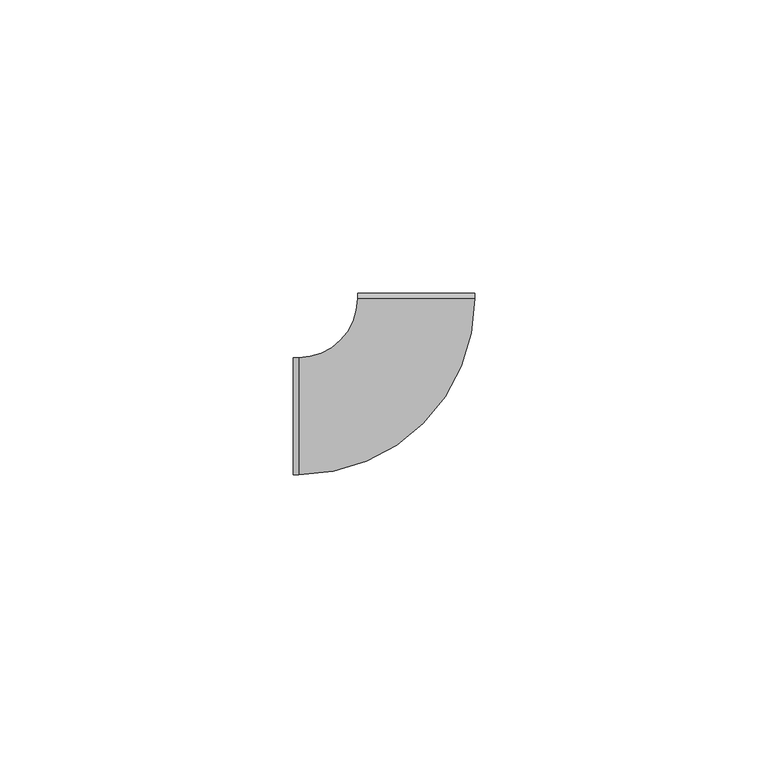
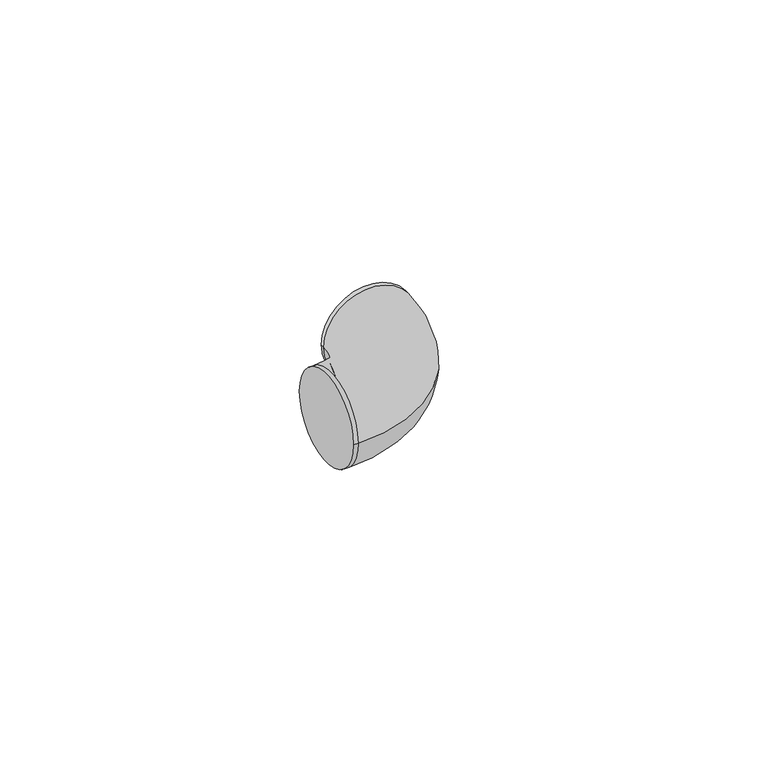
"""IFC4 building model written with IfcOpenShell, lengths in millimetres: cable carrier fitting geometry, ADSK_Поворот_Минимальный размер : Неспецифицируемый."""

import ifcopenshell
import ifcopenshell.guid

model = None  # the IFC model being written
_history = None  # IfcOwnerHistory: only IFC2X3 demands one
_inside = {}  # id of a spatial element -> (the spatial element, [elements in it])
_under = {}  # id of a project, library or spatial element -> (it, [spatial elements below it])
_declared = {}  # id of a project -> (the project, [libraries it declares])
_typed = {}  # id of a type object -> (the type object, [elements of that type])
_made_of = {}  # id of a material, layer set ... -> (it, [elements and type objects made of it])


def new_model(schema):
    """Start an empty IFC model of exactly this schema.

    Asked for "IFC4X3", IfcOpenShell would pick the latest addendum, in which some entities
    have other attributes; the version numbers below select the first issue.
    IFC2X3 requires an IfcOwnerHistory on every rooted entity: one is made here for all.
    """
    global model, _history
    if schema == "IFC4X3":
        model = ifcopenshell.file(schema_version=(4, 3, 0, 0))
    else:
        model = ifcopenshell.file(schema=schema)
    _inside.clear()
    _under.clear()
    _declared.clear()
    _typed.clear()
    _made_of.clear()
    _history = None
    if model.schema == "IFC2X3":
        org = make("IfcOrganization", Name="unknown")
        user = make(
            "IfcPersonAndOrganization",
            ThePerson=make("IfcPerson", FamilyName="unknown"),
            TheOrganization=org,
        )
        app = make(
            "IfcApplication",
            ApplicationDeveloper=org,
            Version="unknown",
            ApplicationFullName="unknown",
            ApplicationIdentifier="unknown",
        )
        _history = make(
            "IfcOwnerHistory",
            OwningUser=user,
            OwningApplication=app,
            ChangeAction="ADDED",
            CreationDate=0,
        )
    return model


def make(cls, **values):
    """One entity of the class cls with the attributes given. An attribute that is None is left unset."""
    return model.create_entity(
        cls, **{name: value for name, value in values.items() if value is not None}
    )


def rooted(cls, **values):
    """An entity with a GlobalId (a new one), such as an element, a storey or a relation."""
    return make(cls, GlobalId=ifcopenshell.guid.new(), OwnerHistory=_history, **values)


def si_unit(unit_type, name, prefix=None):
    """IfcSIUnit, for example si_unit("LENGTHUNIT", "METRE", prefix="MILLI")."""
    return make("IfcSIUnit", UnitType=unit_type, Prefix=prefix, Name=name)


def assignment(units):
    """IfcUnitAssignment: the units of a project."""
    return None if units is None else make("IfcUnitAssignment", Units=units)


def point(xyz):
    """IfcCartesianPoint."""
    return None if xyz is None else make("IfcCartesianPoint", Coordinates=xyz)


def direction(xyz):
    """IfcDirection."""
    return None if xyz is None else make("IfcDirection", DirectionRatios=xyz)


def frame(location, z_axis=None, x_axis=None):
    """IfcAxis2Placement3D, a coordinate frame: its origin and axes. An axis left out is left unset."""
    return make(
        "IfcAxis2Placement3D",
        Location=point(location),
        Axis=direction(z_axis),
        RefDirection=direction(x_axis),
    )


def origin():
    """The frame at (0, 0, 0) with its axes left unset."""
    return frame((0.0, 0.0, 0.0))


def place(relative_to, where):
    """IfcLocalPlacement: puts the frame where relative to a parent placement (None: the world)."""
    return make(
        "IfcLocalPlacement", PlacementRelTo=relative_to, RelativePlacement=where
    )


def context(
    kind, dimensions, precision=None, world=None, true_north=None, identifier=None
):
    """IfcGeometricRepresentationContext, for example the 3D "Model" context."""
    return make(
        "IfcGeometricRepresentationContext",
        ContextIdentifier=identifier,
        ContextType=kind,
        CoordinateSpaceDimension=dimensions,
        Precision=precision,
        WorldCoordinateSystem=world,
        TrueNorth=true_north,
    )


def project(units=None, contexts=None):
    """IfcProject with its units and contexts."""
    return rooted(
        "IfcProject",
        Name="project",
        RepresentationContexts=contexts,
        UnitsInContext=assignment(units),
    )


def spatial(cls, under=None, at=None, **own):
    """A site, building, storey or space (cls), placed at a placement, below another one or the project."""
    s = rooted(cls, ObjectPlacement=at, **own)
    if under is not None:
        _under.setdefault(under.id(), (under, []))[1].append(s)
    return s


def circle_curve(where, radius):
    """IfcCircle in the frame where."""
    return make("IfcCircle", Position=where, Radius=radius)


def ellipse_curve(where, semi_axis1, semi_axis2):
    """IfcEllipse in the frame where."""
    return make(
        "IfcEllipse", Position=where, SemiAxis1=semi_axis1, SemiAxis2=semi_axis2
    )


def trimmed(basis, trim1, trim2, sense, master):
    """IfcTrimmedCurve: the piece of a basis curve between two trims."""
    return make(
        "IfcTrimmedCurve",
        BasisCurve=basis,
        Trim1=trim1,
        Trim2=trim2,
        SenseAgreement=sense,
        MasterRepresentation=master,
    )


def shape(context_of_items, identifier, shape_type, items):
    """IfcShapeRepresentation: the items that make up one representation, for example the "Body"."""
    return make(
        "IfcShapeRepresentation",
        ContextOfItems=context_of_items,
        RepresentationIdentifier=identifier,
        RepresentationType=shape_type,
        Items=items,
    )


def source(mapping_origin, context_of_items, identifier, shape_type, items):
    """IfcRepresentationMap: a shape defined once, which mapped items show again and again."""
    return make(
        "IfcRepresentationMap",
        MappingOrigin=mapping_origin,
        MappedRepresentation=shape(context_of_items, identifier, shape_type, items),
    )


def transform(
    local_origin,
    x_axis=None,
    y_axis=None,
    z_axis=None,
    scale=None,
    scale2=None,
    scale3=None,
    uniform=True,
):
    """IfcCartesianTransformationOperator3D, or its non-uniform kind. x_axis, y_axis, z_axis: its Axis1, 2, 3."""
    if uniform:
        return make(
            "IfcCartesianTransformationOperator3D",
            Axis1=direction(x_axis),
            Axis2=direction(y_axis),
            LocalOrigin=point(local_origin),
            Scale=scale,
            Axis3=direction(z_axis),
        )
    return make(
        "IfcCartesianTransformationOperator3DnonUniform",
        Axis1=direction(x_axis),
        Axis2=direction(y_axis),
        LocalOrigin=point(local_origin),
        Scale=scale,
        Axis3=direction(z_axis),
        Scale2=scale2,
        Scale3=scale3,
    )


def mapped(mapping_source, mapping_target):
    """IfcMappedItem: shows the shape of a source again, moved by a transform."""
    return make(
        "IfcMappedItem", MappingSource=mapping_source, MappingTarget=mapping_target
    )


def made_of(thing, what):
    """Note that an element or type object is made of a material, layer set ...; save() writes the relation."""
    if what is not None:
        _made_of.setdefault(what.id(), (what, []))[1].append(thing)
    return thing


def element(
    cls,
    number,
    at=None,
    inside=None,
    cuts=None,
    type_object=None,
    material=None,
    context=None,
    identifier="Body",
    shape_type=None,
    held_by="IfcProductDefinitionShape",
    body=None,
    shapes=None,
    **own,
):
    """One element of the class cls, such as IfcWall. Its Tag is "e" and its number.

    at: its placement. inside: the storey or other place that contains it. cuts: it is an
    opening in that element (IfcRelVoidsElement). A single representation is given by context,
    identifier, shape_type and body (its items); several are given by shapes. held_by: the class
    of the entity that holds the representations. save() writes the other relations.
    """
    e = rooted(cls, Tag="e%d" % number, ObjectPlacement=at, **own)
    if body is not None:
        shapes = [shape(context, identifier, shape_type, body)]
    if shapes is not None:
        e.Representation = make(held_by, Representations=shapes)
    if inside is not None:
        _inside.setdefault(inside.id(), (inside, []))[1].append(e)
    if cuts is not None:
        rooted(
            "IfcRelVoidsElement", RelatingBuildingElement=cuts, RelatedOpeningElement=e
        )
    if type_object is not None:
        _typed.setdefault(type_object.id(), (type_object, []))[1].append(e)
    return made_of(e, material)


def aggregate(whole, parts):
    """IfcRelAggregates: a whole, such as a stair, and the parts it consists of."""
    return rooted("IfcRelAggregates", RelatingObject=whole, RelatedObjects=parts)


def save(model, path):
    """Write the relations noted so far, then the file.

    IfcRelAggregates (storeys below a building ...), IfcRelContainedInSpatialStructure (elements
    in a storey), IfcRelDefinesByType, IfcRelAssociatesMaterial and IfcRelDeclares: one each for
    every whole, place, type object, material and project.
    """
    for whole, parts in _under.values():
        aggregate(whole, parts)
    for where, things in _inside.values():
        rooted(
            "IfcRelContainedInSpatialStructure",
            RelatedElements=things,
            RelatingStructure=where,
        )
    for kind, things in _typed.values():
        rooted("IfcRelDefinesByType", RelatedObjects=things, RelatingType=kind)
    for what, things in _made_of.values():
        rooted("IfcRelAssociatesMaterial", RelatedObjects=things, RelatingMaterial=what)
    for by, libraries in _declared.values():
        rooted("IfcRelDeclares", RelatingContext=by, RelatedDefinitions=libraries)
    model.write(path)


def plane_surface(at):
    """IfcPlane: the flat surface through the origin of the frame at, square to its z axis."""
    return make("IfcPlane", Position=at)


def cylinder_surface(at, radius):
    """IfcCylindricalSurface: all points at the distance radius from the z axis of the frame at."""
    return make("IfcCylindricalSurface", Position=at, Radius=radius)


def revolved_surface(curve, axis_point, axis_direction):
    """IfcSurfaceOfRevolution: the curve turned about the line through axis_point along axis_direction."""
    return make(
        "IfcSurfaceOfRevolution",
        SweptCurve=make("IfcArbitraryOpenProfileDef", ProfileType="CURVE", Curve=curve),
        AxisPosition=make("IfcAxis1Placement", Location=point(axis_point), Axis=direction(axis_direction)),
    )


def advanced_brep(points, edges, surfaces, faces):
    """IfcAdvancedBrep: a solid bounded by faces that lie on surfaces and meet in shared edges.

    An edge is (start, end): straight between two places in points (the first is 0);
    or (start, end, curve); or (start, end, curve, False) where it runs against its curve.
    A face is (place in surfaces, loops), or (place, loops, False) where it looks against
    its surface's normal. A loop lists edges by number (the first is 1), with a minus sign
    where the edge is run from its end to its start. The first loop is the outer one.
    """
    corners = [point(p) for p in points]
    vertices = [make("IfcVertexPoint", VertexGeometry=c) for c in corners]
    made = []
    for start, end, *more in edges:
        made.append(
            make(
                "IfcEdgeCurve",
                EdgeStart=vertices[start],
                EdgeEnd=vertices[end],
                EdgeGeometry=more[0] if more else make("IfcPolyline", Points=[corners[start], corners[end]]),
                SameSense=more[1] if len(more) > 1 else True,
            )
        )
    hull = []
    for where, loops, *sense in faces:
        bounds = []
        for j, loop in enumerate(loops):
            ring = [make("IfcOrientedEdge", EdgeElement=made[abs(k) - 1], Orientation=k > 0) for k in loop]
            bounds.append(
                make(
                    "IfcFaceOuterBound" if j == 0 else "IfcFaceBound",
                    Bound=make("IfcEdgeLoop", EdgeList=ring),
                    Orientation=True,
                )
            )
        hull.append(make("IfcAdvancedFace", Bounds=bounds, FaceSurface=surfaces[where], SameSense=sense[0] if sense else True))
    return make("IfcAdvancedBrep", Outer=make("IfcClosedShell", CfsFaces=hull))


def cable_carrier_fitting_8404fc2a(model_context):
    return source(origin(), model_context, "Body", "AdvancedBrep", [
        advanced_brep(
        [(-21.0008647, -10.0, 0.0), (-21.0008647, 10.0, 0.0), (-20.0008647, -10.0, 0.0), (-20.0008647, 10.0, 0.0), (-10.0008647, 20.0004324, 0.0), (9.9991352, 20.0012971, 0.0), (9.999092, 21.0012971, 0.0), (-10.000908, 21.0004324, 0.0)],
        [
            (0, 1, circle_curve(frame((-21.0008647, 0.0, 0.0), z_axis=(-1.0, -4.92260399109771e-12, 0.0), x_axis=(-4.92260399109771e-12, 1.0, 0.0)), 10.0)),
            (1, 0, circle_curve(frame((-21.0008647, 0.0, 0.0), z_axis=(-1.0, -4.92260399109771e-12, 0.0), x_axis=(-4.92260399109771e-12, 1.0, 0.0)), 10.0)),
            (0, 2),
            (2, 3, circle_curve(frame((-20.0008647, 0.0, 0.0), z_axis=(-1.0, -4.92260399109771e-12, 0.0), x_axis=(-4.92260399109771e-12, 1.0, 0.0)), 10.0)),
            (3, 1),
            (3, 2, circle_curve(frame((-20.0008647, 0.0, 0.0), z_axis=(-1.0, -4.92260399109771e-12, 0.0), x_axis=(-4.92260399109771e-12, 1.0, 0.0)), 10.0)),
            (4, 3, circle_curve(frame((-20.0008647, 20.0, 0.0), z_axis=(0.0, 0.0, -1.0), x_axis=(0.0, -1.0, 0.0)), 10.0)),
            (2, 5, circle_curve(frame((-20.0008647, 20.0, 0.0), z_axis=(0.0, 0.0, 1.0), x_axis=(0.0, -1.0, 0.0)), 30.0)),
            (5, 4, circle_curve(frame((-0.0008648, 20.0008647, 0.0), z_axis=(4.323607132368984e-05, -0.9999999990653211, 0.0), x_axis=(-0.9999999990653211, -4.323607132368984e-05, 0.0)), 10.0)),
            (4, 5, circle_curve(frame((-0.0008648, 20.0008647, 0.0), z_axis=(4.323607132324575e-05, -0.9999999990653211, 0.0), x_axis=(-0.9999999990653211, -4.323607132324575e-05, 0.0)), 10.0)),
            (6, 7, circle_curve(frame((-0.000908, 21.0008647, 0.0), z_axis=(-4.3236071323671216e-05, 0.9999999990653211, 0.0), x_axis=(-0.9999999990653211, -4.3236071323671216e-05, 0.0)), 10.0)),
            (7, 6, circle_curve(frame((-0.000908, 21.0008647, 0.0), z_axis=(-4.3236071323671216e-05, 0.9999999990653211, 0.0), x_axis=(-0.9999999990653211, -4.3236071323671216e-05, 0.0)), 10.0)),
            (5, 6),
            (7, 4),
        ],
        [
            plane_surface(frame((-21.0008647, 0.0, 0.0), z_axis=(-1.0, -4.92260399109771e-12, 0.0), x_axis=(0.0, 0.0, 1.0))),
            cylinder_surface(frame((-21.0008647, 0.0, 0.0), z_axis=(-1.0, -4.92260399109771e-12, 0.0), x_axis=(-4.92260399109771e-12, 1.0, 0.0)), 10.0),
            revolved_surface(trimmed(ellipse_curve(frame((-20.0008647, 0.0, 0.0), z_axis=(-1.0, 0.0, 0.0), x_axis=(0.0, 1.0, 0.0)), 10.0, 10.0), [point((-20.0008647, -10.0, 0.0))], [point((-20.0008647, 10.0, 0.0))], True, "CARTESIAN"), (-20.0008647, 20.0, 0.0), (0.0, 0.0, 1.0)),
            revolved_surface(trimmed(ellipse_curve(frame((-20.0008647, 0.0, 0.0), z_axis=(-1.0, 0.0, 0.0), x_axis=(0.0, 1.0, 0.0)), 10.0, 10.0), [point((-20.0008647, 10.0, 0.0))], [point((-20.0008647, -10.0, 0.0))], True, "CARTESIAN"), (-20.0008647, 20.0, 0.0), (0.0, 0.0, 1.0)),
            plane_surface(frame((-0.000908, 21.0008647, 0.0), z_axis=(-4.323607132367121e-05, 0.9999999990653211, 0.0), x_axis=(0.0, 0.0, 1.0))),
            cylinder_surface(frame((-0.0008648, 20.0008647, 0.0), z_axis=(4.3236071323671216e-05, -0.9999999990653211, 0.0), x_axis=(-0.9999999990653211, -4.3236071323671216e-05, 0.0)), 10.0),
        ],
        [
            (0, [[1, 2]]),
            (1, [[-1, 3, 4, 5]]),
            (1, [[-2, -5, 6, -3]]),
            (2, [[7, -4, 8, 9]]),
            (3, [[-8, -6, -7, 10]]),
            (4, [[11, 12]]),
            (5, [[-9, 13, -12, 14]]),
            (5, [[-10, -14, -11, -13]]),
        ],
    ),
    ])


if __name__ == "__main__":
    model = new_model("IFC4")
    model_context = context("Model", 3, world=origin())
    ifc_project = project(units=[si_unit("LENGTHUNIT", "METRE", prefix="MILLI")], contexts=[model_context])
    site = spatial("IfcSite", under=ifc_project)
    building = spatial("IfcBuilding", under=site)
    placement = place(None, origin())
    cable_carrier_fitting_shape = cable_carrier_fitting_8404fc2a(model_context)
    element("IfcCableCarrierFitting", 1, ObjectType="ADSK_Поворот_Минимальный размер : Неспецифицируемый", at=placement, inside=building, context=model_context, shape_type="MappedRepresentation", body=[
        mapped(cable_carrier_fitting_shape, transform((0.0, 0.0, 0.0), x_axis=(1.0, 0.0, 0.0), y_axis=(0.0, 1.0, 0.0), z_axis=(0.0, 0.0, 1.0))),
    ])
    save(model, "model.ifc")
